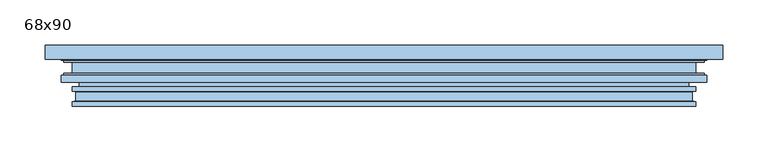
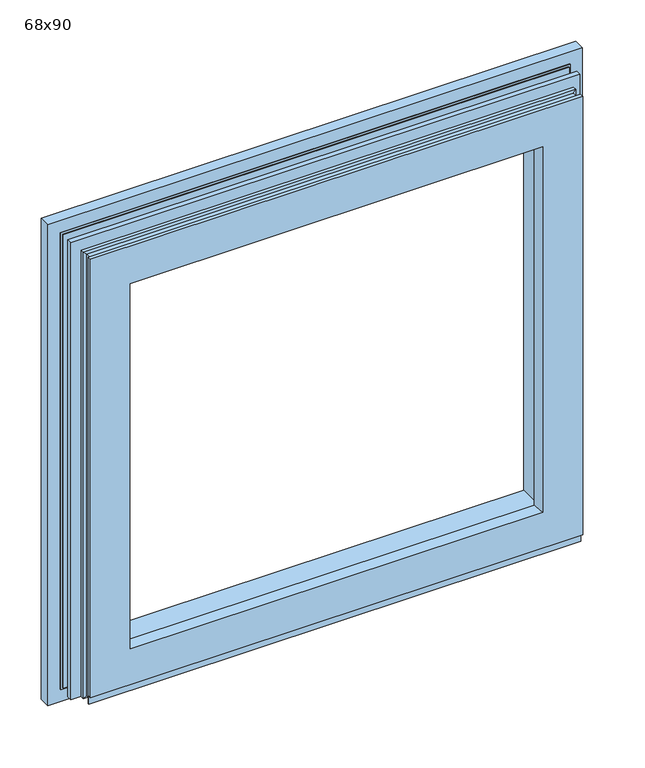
"""IFC4 building model written with IfcOpenShell, lengths in millimetres: window geometry, NLRS_30_WIN_raamhout_sh_gen_TOBA-JM : 68x90."""

from ifc_helpers import new_model, si_unit, origin, place, context, project, spatial, faceted_brep, source, transform, mapped, element, save


def window_68x90_2b73533a(model_context):
    return source(origin(), model_context, "Body", "Brep", [
        faceted_brep([(376.0, 68.0, 709.0), (376.0, 52.0, 709.0), (376.0, 52.0, -6.0), (376.0, 68.0, -6.0), (376.0, 68.0, -5.0), (376.0, 68.0, 84.0), (-376.0, 52.0, -6.0), (-376.0, 52.0, 709.0), (-358.0, 52.0, 691.0), (358.0, 52.0, 691.0), (358.0, 52.0, 12.0), (-358.0, 52.0, 12.0), (-376.0, 68.0, -6.0), (-376.0, 68.0, 709.0), (-376.0, 68.0, -5.0), (-376.0, 68.0, 84.0), (303.0, 68.0, 636.0), (-303.0, 68.0, 636.0), (-303.0, 68.0, 67.0), (303.0, 68.0, 67.0), (303.0, 13.0, 636.0), (303.0, 13.0, 67.0), (-303.0, 13.0, 67.0), (-303.0, 13.0, 636.0), (286.0, 13.0, 619.0), (-286.0, 13.0, 619.0), (-286.0, 13.0, 84.0), (286.0, 13.0, 84.0), (290.0, 0.0, 623.0), (290.0, 0.0, 80.0), (-290.0, 0.0, 80.0), (346.0, 0.0, 27.0), (346.0, 0.0, 679.0), (-346.0, 0.0, 679.0), (-346.0, 0.0, 27.0), (-290.0, 0.0, 623.0), (346.0, 5.0, 679.0), (346.0, 4.0, 27.0), (346.0, 4.0, 15.0), (346.0, 5.0, 15.0), (-346.0, 4.0, 27.0), (-346.0, 4.0, 15.0), (-342.0, 9.0, 15.0), (342.0, 9.0, 15.0), (342.0, 6.0, 15.0), (-346.0, 5.0, 15.0), (-342.0, 6.0, 15.0), (342.0, 6.0, 675.0), (342.0, 16.0, 675.0), (342.0, 10.0, 19.0), (342.0, 16.0, 19.0), (-342.0, 10.0, 19.0), (-342.0, 16.0, 19.0), (346.0, 17.0, 679.0), (346.0, 17.0, 15.0), (-346.0, 17.0, 15.0), (346.0, 22.0, 679.0), (346.0, 22.0, 15.0), (-346.0, 22.0, 15.0), (-346.0, 22.0, 679.0), (-338.0, 22.0, 23.0), (338.0, 22.0, 23.0), (338.0, 22.0, 671.0), (-338.0, 22.0, 671.0), (338.0, 27.0, 671.0), (338.0, 27.0, 23.0), (-338.0, 27.0, 23.0), (358.0, 27.0, 12.0), (358.0, 27.0, 691.0), (-358.0, 27.0, 691.0), (-358.0, 27.0, 12.0), (-338.0, 27.0, 671.0), (358.0, 34.5, 691.0), (358.0, 34.5, 12.0), (-358.0, 34.5, 12.0), (-358.0, 34.5, 691.0), (-355.5, 34.5, 14.5), (355.5, 34.5, 14.5), (355.5, 34.5, 688.5), (-355.5, 34.5, 688.5), (355.5, 36.5, 688.5), (355.5, 36.5, 14.5), (-355.5, 36.5, 14.5), (-355.5, 36.5, 688.5), (-346.0, 36.5, 24.0), (346.0, 36.5, 24.0), (346.0, 36.5, 679.0), (-346.0, 36.5, 679.0), (346.0, 49.0, 679.0), (346.0, 49.0, 24.0), (-346.0, 49.0, 24.0), (355.5, 49.0, 14.5), (355.5, 49.0, 688.5), (-355.5, 49.0, 688.5), (-355.5, 49.0, 14.5), (-346.0, 49.0, 679.0), (355.5, 51.0, 688.5), (355.5, 51.0, 14.5), (-355.5, 51.0, 14.5), (358.0, 51.0, 12.0), (358.0, 51.0, 691.0), (-358.0, 51.0, 691.0), (-358.0, 51.0, 12.0), (-355.5, 51.0, 688.5), (-346.0, 5.0, 679.0), (-342.0, 6.0, 675.0), (-342.0, 16.0, 675.0), (-346.0, 17.0, 679.0)], [[[0, 1, 2, 3, 4, 5]], [[6, 2, 1, 7], [8, 9, 10, 11]], [[6, 12, 3, 2]], [[13, 0, 5, 4, 3, 12, 14, 15], [16, 17, 18, 19]], [[20, 16, 19, 21]], [[19, 18, 22, 21]], [[23, 20, 21, 22], [24, 25, 26, 27]], [[28, 24, 27, 29]], [[27, 26, 30, 29]], [[31, 32, 33, 34], [35, 28, 29, 30]], [[36, 32, 31, 37, 38, 39]], [[31, 34, 40, 37]], [[41, 38, 37, 40]], [[42, 43, 44, 39, 38, 41, 45, 46]], [[47, 36, 39, 44]], [[48, 47, 44, 43, 49, 50]], [[51, 49, 43, 42]], [[52, 50, 49, 51]], [[53, 48, 50, 54]], [[55, 54, 50, 52]], [[56, 53, 54, 57]], [[58, 57, 54, 55]], [[58, 59, 56, 57], [60, 61, 62, 63]], [[64, 62, 61, 65]], [[66, 65, 61, 60]], [[67, 68, 69, 70], [66, 71, 64, 65]], [[72, 68, 67, 73]], [[74, 73, 67, 70]], [[74, 75, 72, 73], [76, 77, 78, 79]], [[80, 78, 77, 81]], [[82, 81, 77, 76]], [[82, 83, 80, 81], [84, 85, 86, 87]], [[88, 86, 85, 89]], [[90, 89, 85, 84]], [[91, 92, 93, 94], [90, 95, 88, 89]], [[96, 92, 91, 97]], [[98, 97, 91, 94]], [[99, 100, 101, 102], [98, 103, 96, 97]], [[9, 100, 99, 10]], [[11, 10, 99, 102]], [[102, 101, 8, 11]], [[6, 7, 13, 15, 14, 12]], [[17, 23, 22, 18]], [[25, 35, 30, 26]], [[33, 104, 45, 41, 40, 34]], [[45, 104, 105, 46]], [[46, 105, 106, 52, 51, 42]], [[52, 106, 107, 55]], [[55, 107, 59, 58]], [[60, 63, 71, 66]], [[70, 69, 75, 74]], [[76, 79, 83, 82]], [[84, 87, 95, 90]], [[94, 93, 103, 98]], [[1, 0, 13, 7]], [[16, 20, 23, 17]], [[24, 28, 35, 25]], [[32, 36, 104, 33]], [[36, 47, 105, 104]], [[47, 48, 106, 105]], [[48, 53, 107, 106]], [[53, 56, 59, 107]], [[62, 64, 71, 63]], [[68, 72, 75, 69]], [[78, 80, 83, 79]], [[86, 88, 95, 87]], [[92, 96, 103, 93]], [[100, 9, 8, 101]]]),
    ])


if __name__ == "__main__":
    model = new_model("IFC4")
    model_context = context("Model", 3, world=origin())
    ifc_project = project(units=[si_unit("LENGTHUNIT", "METRE", prefix="MILLI")], contexts=[model_context])
    site = spatial("IfcSite", under=ifc_project)
    building = spatial("IfcBuilding", under=site)
    placement = place(None, origin())
    window_68x90_shape = window_68x90_2b73533a(model_context)
    element("IfcWindow", 1, ObjectType="NLRS_30_WIN_raamhout_sh_gen_TOBA-JM : 68x90", at=placement, inside=building, context=model_context, shape_type="MappedRepresentation", body=[
        mapped(window_68x90_shape, transform((0.0, 0.0, 0.0), x_axis=(1.0, 0.0, 0.0), y_axis=(0.0, 1.0, 0.0), z_axis=(0.0, 0.0, 1.0))),
    ])
    save(model, "model.ifc")
